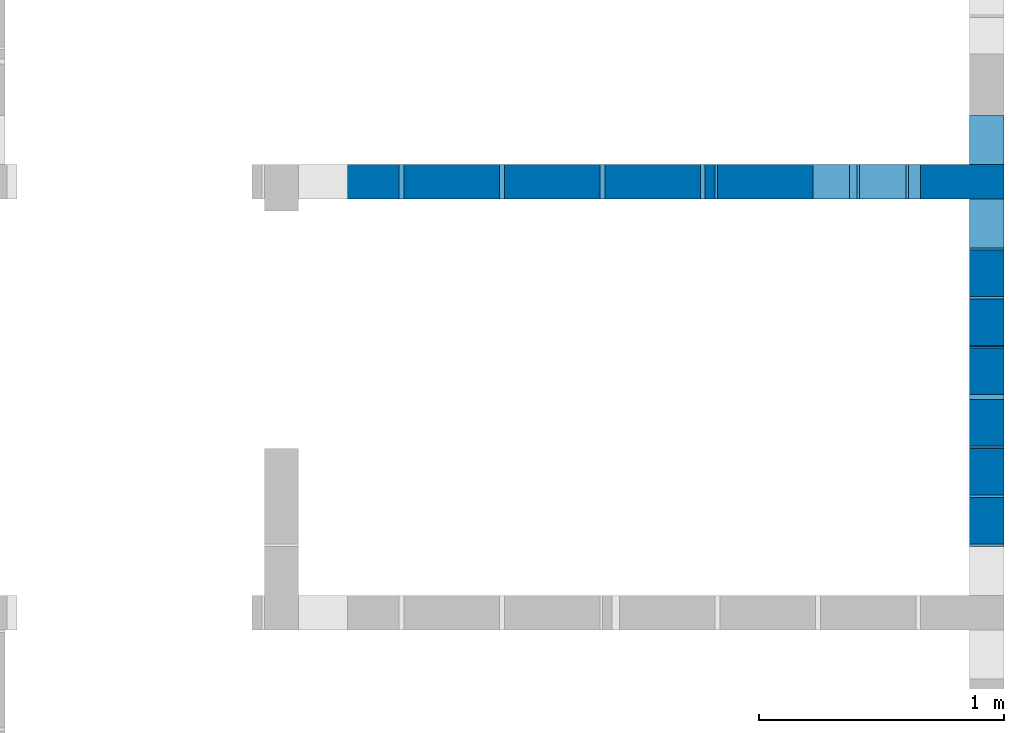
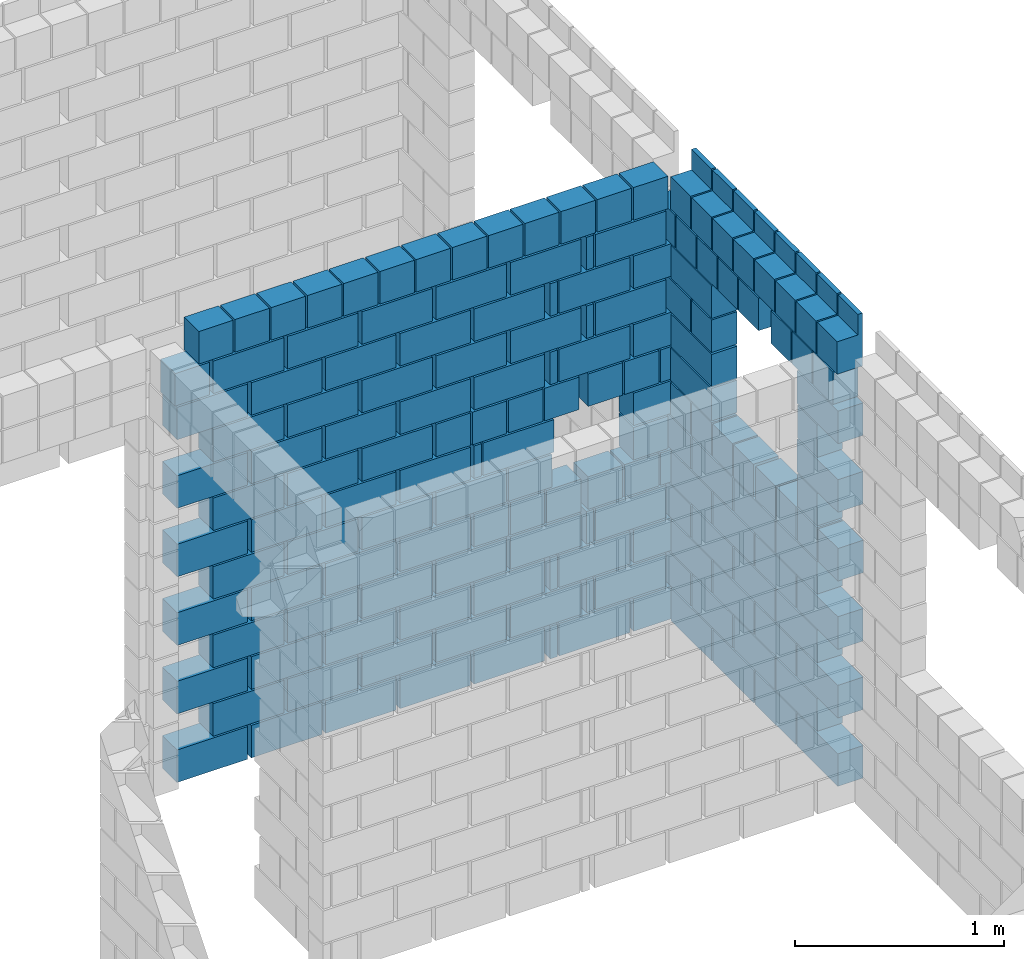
# One storey, part 10 of 12: 3 walls.
"""IFC4 building model written with IfcOpenShell, lengths in centimetres."""

from ifc_helpers import new_model, si_unit, derived_unit, frame, origin, origin_with_axes, origin_2d_with_axis, place, context, project, spatial, rectangle, extrude, element, save


model = new_model("IFC4")

# Units and contexts
model_context = context("Model", 3, precision=1e-05, world=origin_with_axes(), identifier="Body")
ifc_project = project(units=[si_unit("LENGTHUNIT", "METRE", prefix="CENTI"), si_unit("VOLUMEUNIT", "CUBIC_METRE"), si_unit("AREAUNIT", "SQUARE_METRE"), si_unit("POWERUNIT", "WATT"), si_unit("LUMINOUSFLUXUNIT", "LUMEN"), si_unit("ELECTRICCURRENTUNIT", "AMPERE"), si_unit("PRESSUREUNIT", "PASCAL", prefix="KILO"), si_unit("MASSUNIT", "GRAM", prefix="KILO"), si_unit("PLANEANGLEUNIT", "RADIAN"), derived_unit("VOLUMETRICFLOWRATEUNIT", [(si_unit("LENGTHUNIT", "METRE"), 3), (si_unit("TIMEUNIT", "SECOND"), -1)])], contexts=[model_context])

# Site, building, storey
site_placement = place(None, origin_with_axes())
site = spatial("IfcSite", under=ifc_project, at=site_placement)
building_placement = place(site_placement, origin())
building = spatial("IfcBuilding", under=site, at=building_placement)
storey_placement = place(building_placement, origin_with_axes())
storey = spatial("IfcBuildingStorey", under=building, at=storey_placement, Name="PISO", CompositionType="ELEMENT", Elevation=0.0)

# Walls
wall_1_placement = place(storey_placement, frame((682.01, 557.01, 239.0), z_axis=(0.0, 0.0, 1.0), x_axis=(1.0, 0.0, 0.0)))
element("IfcWall", 1, at=wall_1_placement, inside=storey, context=model_context, shape_type="SolidModel", body=[
    extrude(rectangle(XDim=34.0, YDim=14.0, at=origin_2d_with_axis()), frame((0.0, 0.0, -239.0), z_axis=(0.0, 0.0, 1.0), x_axis=(-1.0, 0.0, 0.0)), (0.0, 0.0, 1.0), 19.0),
    extrude(rectangle(XDim=54.0, YDim=14.0, at=origin_2d_with_axis()), frame((10.0, 0.0, -219.0), z_axis=(0.0, 0.0, 1.0), x_axis=(0.0, 1.0, 0.0)), (0.0, 0.0, 1.0), 19.0),
    extrude(rectangle(XDim=34.0, YDim=14.0, at=origin_2d_with_axis()), frame((0.0, 0.0, -199.0), z_axis=(0.0, 0.0, 1.0), x_axis=(-1.0, 0.0, 0.0)), (0.0, 0.0, 1.0), 19.0),
    extrude(rectangle(XDim=54.0, YDim=14.0, at=origin_2d_with_axis()), frame((10.0, 0.0, -179.0), z_axis=(0.0, 0.0, 1.0), x_axis=(0.0, 1.0, 0.0)), (0.0, 0.0, 1.0), 19.0),
    extrude(rectangle(XDim=19.0, YDim=14.0, at=origin_2d_with_axis()), frame((7.5, 0.0, -159.0), z_axis=(0.0, 0.0, 1.0), x_axis=(-1.0, 0.0, 0.0)), (0.0, 0.0, 1.0), 19.0),
    extrude(rectangle(XDim=54.0, YDim=14.0, at=origin_2d_with_axis()), frame((10.0, 0.0, -139.0), z_axis=(0.0, 0.0, 1.0), x_axis=(0.0, 1.0, 0.0)), (0.0, 0.0, 1.0), 19.0),
    extrude(rectangle(XDim=34.0, YDim=14.0, at=origin_2d_with_axis()), frame((0.0, 0.0, -119.0), z_axis=(0.0, 0.0, 1.0), x_axis=(-1.0, 0.0, 0.0)), (0.0, 0.0, 1.0), 19.0),
    extrude(rectangle(XDim=19.0, YDim=14.0, at=origin_2d_with_axis()), frame((7.5, 0.0, -99.0), z_axis=(0.0, 0.0, 1.0), x_axis=(-1.0, 0.0, 0.0)), (0.0, 0.0, 1.0), 19.0),
    extrude(rectangle(XDim=34.0, YDim=14.0, at=origin_2d_with_axis()), frame((0.0, 0.0, -79.0), z_axis=(0.0, 0.0, 1.0), x_axis=(-1.0, 0.0, 0.0)), (0.0, 0.0, 1.0), 19.0),
    extrude(rectangle(XDim=54.0, YDim=14.0, at=origin_2d_with_axis()), frame((10.0, 0.0, -59.0), z_axis=(0.0, 0.0, 1.0), x_axis=(0.0, 1.0, 0.0)), (0.0, 0.0, 1.0), 19.0),
    extrude(rectangle(XDim=34.0, YDim=14.0, at=origin_2d_with_axis()), frame((0.0, 0.0, -39.0), z_axis=(0.0, 0.0, 1.0), x_axis=(-1.0, 0.0, 0.0)), (0.0, 0.0, 1.0), 19.0),
    extrude(rectangle(XDim=19.0, YDim=14.0, at=origin_2d_with_axis()), frame((10.0, -2.5, -19.0), z_axis=(0.0, 0.0, 1.0), x_axis=(0.0, -1.0, 0.0)), (0.0, 0.0, 1.0), 19.0),
])
wall_2_placement = place(storey_placement, frame((692.01, 469.01, 271.0), z_axis=(0.0, 0.0, 1.0), x_axis=(1.0, 0.0, 0.0)))
element("IfcWall", 2, at=wall_2_placement, inside=storey, Name="PAR-PISO-15", context=model_context, shape_type="SolidModel", body=[
    extrude(rectangle(XDim=39.0, YDim=14.0, at=origin_2d_with_axis()), frame((0.0, 60.3, -271.0), z_axis=(0.0, 0.0, 1.0), x_axis=(0.0, -1.0, 0.0)), (0.0, 0.0, 1.0), 19.0),
    extrude(rectangle(XDim=39.0, YDim=14.0, at=origin_2d_with_axis()), frame((0.0, 20.1, -271.0), z_axis=(0.0, 0.0, 1.0), x_axis=(0.0, -1.0, 0.0)), (0.0, 0.0, 1.0), 19.0),
    extrude(rectangle(XDim=39.0, YDim=14.0, at=origin_2d_with_axis()), frame((0.0, -20.1, -271.0), z_axis=(0.0, 0.0, 1.0), x_axis=(0.0, -1.0, 0.0)), (0.0, 0.0, 1.0), 19.0),
    extrude(rectangle(XDim=39.0, YDim=14.0, at=origin_2d_with_axis()), frame((0.0, -60.3, -271.0), z_axis=(0.0, 0.0, 1.0), x_axis=(0.0, -1.0, 0.0)), (0.0, 0.0, 1.0), 19.0),
    extrude(rectangle(XDim=39.0, YDim=14.0, at=origin_2d_with_axis()), frame((0.0, 40.25, -251.0), z_axis=(0.0, 0.0, 1.0), x_axis=(0.0, -1.0, 0.0)), (0.0, 0.0, 1.0), 19.0),
    extrude(rectangle(XDim=39.0, YDim=14.0, at=origin_2d_with_axis()), frame((0.0, 0.0, -251.0), z_axis=(0.0, 0.0, 1.0), x_axis=(0.0, -1.0, 0.0)), (0.0, 0.0, 1.0), 19.0),
    extrude(rectangle(XDim=39.0, YDim=14.0, at=origin_2d_with_axis()), frame((0.0, -40.25, -251.0), z_axis=(0.0, 0.0, 1.0), x_axis=(0.0, -1.0, 0.0)), (0.0, 0.0, 1.0), 19.0),
    extrude(rectangle(XDim=39.0, YDim=14.0, at=origin_2d_with_axis()), frame((0.0, 60.3, -231.0), z_axis=(0.0, 0.0, 1.0), x_axis=(0.0, -1.0, 0.0)), (0.0, 0.0, 1.0), 19.0),
    extrude(rectangle(XDim=39.0, YDim=14.0, at=origin_2d_with_axis()), frame((0.0, 20.1, -231.0), z_axis=(0.0, 0.0, 1.0), x_axis=(0.0, -1.0, 0.0)), (0.0, 0.0, 1.0), 19.0),
    extrude(rectangle(XDim=39.0, YDim=14.0, at=origin_2d_with_axis()), frame((0.0, -20.1, -231.0), z_axis=(0.0, 0.0, 1.0), x_axis=(0.0, -1.0, 0.0)), (0.0, 0.0, 1.0), 19.0),
    extrude(rectangle(XDim=39.0, YDim=14.0, at=origin_2d_with_axis()), frame((0.0, -60.3, -231.0), z_axis=(0.0, 0.0, 1.0), x_axis=(0.0, -1.0, 0.0)), (0.0, 0.0, 1.0), 19.0),
    extrude(rectangle(XDim=39.0, YDim=14.0, at=origin_2d_with_axis()), frame((0.0, 40.25, -211.0), z_axis=(0.0, 0.0, 1.0), x_axis=(0.0, -1.0, 0.0)), (0.0, 0.0, 1.0), 19.0),
    extrude(rectangle(XDim=39.0, YDim=14.0, at=origin_2d_with_axis()), frame((0.0, 0.0, -211.0), z_axis=(0.0, 0.0, 1.0), x_axis=(0.0, -1.0, 0.0)), (0.0, 0.0, 1.0), 19.0),
    extrude(rectangle(XDim=39.0, YDim=14.0, at=origin_2d_with_axis()), frame((0.0, -40.25, -211.0), z_axis=(0.0, 0.0, 1.0), x_axis=(0.0, -1.0, 0.0)), (0.0, 0.0, 1.0), 19.0),
    extrude(rectangle(XDim=39.0, YDim=14.0, at=origin_2d_with_axis()), frame((0.0, 60.3, -191.0), z_axis=(0.0, 0.0, 1.0), x_axis=(0.0, -1.0, 0.0)), (0.0, 0.0, 1.0), 19.0),
    extrude(rectangle(XDim=39.0, YDim=14.0, at=origin_2d_with_axis()), frame((0.0, 20.1, -191.0), z_axis=(0.0, 0.0, 1.0), x_axis=(0.0, -1.0, 0.0)), (0.0, 0.0, 1.0), 19.0),
    extrude(rectangle(XDim=39.0, YDim=14.0, at=origin_2d_with_axis()), frame((0.0, -20.1, -191.0), z_axis=(0.0, 0.0, 1.0), x_axis=(0.0, -1.0, 0.0)), (0.0, 0.0, 1.0), 19.0),
    extrude(rectangle(XDim=39.0, YDim=14.0, at=origin_2d_with_axis()), frame((0.0, -60.3, -191.0), z_axis=(0.0, 0.0, 1.0), x_axis=(0.0, -1.0, 0.0)), (0.0, 0.0, 1.0), 19.0),
    extrude(rectangle(XDim=39.0, YDim=14.0, at=origin_2d_with_axis()), frame((0.0, 40.25, -171.0), z_axis=(0.0, 0.0, 1.0), x_axis=(0.0, -1.0, 0.0)), (0.0, 0.0, 1.0), 19.0),
    extrude(rectangle(XDim=39.0, YDim=14.0, at=origin_2d_with_axis()), frame((0.0, 0.0, -171.0), z_axis=(0.0, 0.0, 1.0), x_axis=(0.0, -1.0, 0.0)), (0.0, 0.0, 1.0), 19.0),
    extrude(rectangle(XDim=39.0, YDim=14.0, at=origin_2d_with_axis()), frame((0.0, -40.25, -171.0), z_axis=(0.0, 0.0, 1.0), x_axis=(0.0, -1.0, 0.0)), (0.0, 0.0, 1.0), 19.0),
    extrude(rectangle(XDim=19.0, YDim=14.0, at=origin_2d_with_axis()), frame((0.0, 70.5, -151.0), z_axis=(0.0, 0.0, 1.0), x_axis=(0.0, -1.0, 0.0)), (0.0, 0.0, 1.0), 19.0),
    extrude(rectangle(XDim=19.0, YDim=14.0, at=origin_2d_with_axis()), frame((0.0, 50.5, -151.0), z_axis=(0.0, 0.0, 1.0), x_axis=(0.0, -1.0, 0.0)), (0.0, 0.0, 1.0), 19.0),
    extrude(rectangle(XDim=19.0, YDim=14.0, at=origin_2d_with_axis()), frame((0.0, 30.5, -151.0), z_axis=(0.0, 0.0, 1.0), x_axis=(0.0, -1.0, 0.0)), (0.0, 0.0, 1.0), 19.0),
    extrude(rectangle(XDim=19.0, YDim=14.0, at=origin_2d_with_axis()), frame((0.0, 10.5, -151.0), z_axis=(0.0, 0.0, 1.0), x_axis=(0.0, -1.0, 0.0)), (0.0, 0.0, 1.0), 19.0),
    extrude(rectangle(XDim=19.0, YDim=14.0, at=origin_2d_with_axis()), frame((0.0, -10.5, -151.0), z_axis=(0.0, 0.0, 1.0), x_axis=(0.0, -1.0, 0.0)), (0.0, 0.0, 1.0), 19.0),
    extrude(rectangle(XDim=19.0, YDim=14.0, at=origin_2d_with_axis()), frame((0.0, -30.5, -151.0), z_axis=(0.0, 0.0, 1.0), x_axis=(0.0, -1.0, 0.0)), (0.0, 0.0, 1.0), 19.0),
    extrude(rectangle(XDim=19.0, YDim=14.0, at=origin_2d_with_axis()), frame((0.0, -50.5, -151.0), z_axis=(0.0, 0.0, 1.0), x_axis=(0.0, -1.0, 0.0)), (0.0, 0.0, 1.0), 19.0),
    extrude(rectangle(XDim=19.0, YDim=14.0, at=origin_2d_with_axis()), frame((0.0, -70.5, -151.0), z_axis=(0.0, 0.0, 1.0), x_axis=(0.0, -1.0, 0.0)), (0.0, 0.0, 1.0), 19.0),
    extrude(rectangle(XDim=19.0, YDim=14.0, at=origin_2d_with_axis()), frame((0.0, -50.5, -131.0), z_axis=(0.0, 0.0, 1.0), x_axis=(0.0, -1.0, 0.0)), (0.0, 0.0, 1.0), 19.0),
    extrude(rectangle(XDim=39.0, YDim=14.0, at=origin_2d_with_axis()), frame((0.0, 60.5, -131.0), z_axis=(0.0, 0.0, 1.0), x_axis=(0.0, -1.0, 0.0)), (0.0, 0.0, 1.0), 19.0),
    extrude(rectangle(XDim=39.0, YDim=14.0, at=origin_2d_with_axis()), frame((0.0, 60.3, -111.0), z_axis=(0.0, 0.0, 1.0), x_axis=(0.0, -1.0, 0.0)), (0.0, 0.0, 1.0), 19.0),
    extrude(rectangle(XDim=39.0, YDim=14.0, at=origin_2d_with_axis()), frame((0.0, -60.3, -111.0), z_axis=(0.0, 0.0, 1.0), x_axis=(0.0, -1.0, 0.0)), (0.0, 0.0, 1.0), 19.0),
    extrude(rectangle(XDim=19.0, YDim=14.0, at=origin_2d_with_axis()), frame((0.0, -50.5, -91.0), z_axis=(0.0, 0.0, 1.0), x_axis=(0.0, -1.0, 0.0)), (0.0, 0.0, 1.0), 19.0),
    extrude(rectangle(XDim=19.0, YDim=14.0, at=origin_2d_with_axis()), frame((0.0, 50.5, -91.0), z_axis=(0.0, 0.0, 1.0), x_axis=(0.0, -1.0, 0.0)), (0.0, 0.0, 1.0), 19.0),
    extrude(rectangle(XDim=39.0, YDim=14.0, at=origin_2d_with_axis()), frame((0.0, 60.3, -71.0), z_axis=(0.0, 0.0, 1.0), x_axis=(0.0, -1.0, 0.0)), (0.0, 0.0, 1.0), 19.0),
    extrude(rectangle(XDim=39.0, YDim=14.0, at=origin_2d_with_axis()), frame((0.0, -60.3, -71.0), z_axis=(0.0, 0.0, 1.0), x_axis=(0.0, -1.0, 0.0)), (0.0, 0.0, 1.0), 19.0),
    extrude(rectangle(XDim=19.0, YDim=14.0, at=origin_2d_with_axis()), frame((0.0, 65.5, -51.0), z_axis=(0.0, 0.0, 1.0), x_axis=(0.0, -1.0, 0.0)), (0.0, 0.0, 1.0), 19.0),
    extrude(rectangle(XDim=19.0, YDim=14.0, at=origin_2d_with_axis()), frame((0.0, 45.5, -51.0), z_axis=(0.0, 0.0, 1.0), x_axis=(0.0, -1.0, 0.0)), (0.0, 0.0, 1.0), 19.0),
    extrude(rectangle(XDim=19.0, YDim=14.0, at=origin_2d_with_axis()), frame((0.0, 25.5, -51.0), z_axis=(0.0, 0.0, 1.0), x_axis=(0.0, -1.0, 0.0)), (0.0, 0.0, 1.0), 19.0),
    extrude(rectangle(XDim=19.0, YDim=14.0, at=origin_2d_with_axis()), frame((0.0, 5.5, -51.0), z_axis=(0.0, 0.0, 1.0), x_axis=(0.0, -1.0, 0.0)), (0.0, 0.0, 1.0), 19.0),
    extrude(rectangle(XDim=19.0, YDim=14.0, at=origin_2d_with_axis()), frame((0.0, -25.5, -51.0), z_axis=(0.0, 0.0, 1.0), x_axis=(0.0, -1.0, 0.0)), (0.0, 0.0, 1.0), 19.0),
    extrude(rectangle(XDim=19.0, YDim=14.0, at=origin_2d_with_axis()), frame((0.0, -45.5, -51.0), z_axis=(0.0, 0.0, 1.0), x_axis=(0.0, -1.0, 0.0)), (0.0, 0.0, 1.0), 19.0),
    extrude(rectangle(XDim=19.0, YDim=14.0, at=origin_2d_with_axis()), frame((0.0, -65.5, -51.0), z_axis=(0.0, 0.0, 1.0), x_axis=(0.0, -1.0, 0.0)), (0.0, 0.0, 1.0), 19.0),
    extrude(rectangle(XDim=19.0, YDim=2.5, at=origin_2d_with_axis()), frame((5.75, 70.5, -12.0), z_axis=(0.0, 0.0, 1.0), x_axis=(0.0, -1.0, 0.0)), (0.0, 0.0, 1.0), 12.0),
    extrude(rectangle(XDim=19.0, YDim=14.0, at=origin_2d_with_axis()), frame((0.0, 70.5, -31.0), z_axis=(0.0, 0.0, 1.0), x_axis=(0.0, -1.0, 0.0)), (0.0, 0.0, 1.0), 19.0),
    extrude(rectangle(XDim=19.0, YDim=2.5, at=origin_2d_with_axis()), frame((5.75, 50.5, -12.0), z_axis=(0.0, 0.0, 1.0), x_axis=(0.0, -1.0, 0.0)), (0.0, 0.0, 1.0), 12.0),
    extrude(rectangle(XDim=19.0, YDim=14.0, at=origin_2d_with_axis()), frame((0.0, 50.5, -31.0), z_axis=(0.0, 0.0, 1.0), x_axis=(0.0, -1.0, 0.0)), (0.0, 0.0, 1.0), 19.0),
    extrude(rectangle(XDim=19.0, YDim=2.5, at=origin_2d_with_axis()), frame((5.75, 30.5, -12.0), z_axis=(0.0, 0.0, 1.0), x_axis=(0.0, -1.0, 0.0)), (0.0, 0.0, 1.0), 12.0),
    extrude(rectangle(XDim=19.0, YDim=14.0, at=origin_2d_with_axis()), frame((0.0, 30.5, -31.0), z_axis=(0.0, 0.0, 1.0), x_axis=(0.0, -1.0, 0.0)), (0.0, 0.0, 1.0), 19.0),
    extrude(rectangle(XDim=19.0, YDim=2.5, at=origin_2d_with_axis()), frame((5.75, 10.5, -12.0), z_axis=(0.0, 0.0, 1.0), x_axis=(0.0, -1.0, 0.0)), (0.0, 0.0, 1.0), 12.0),
    extrude(rectangle(XDim=19.0, YDim=14.0, at=origin_2d_with_axis()), frame((0.0, 10.5, -31.0), z_axis=(0.0, 0.0, 1.0), x_axis=(0.0, -1.0, 0.0)), (0.0, 0.0, 1.0), 19.0),
    extrude(rectangle(XDim=19.0, YDim=2.5, at=origin_2d_with_axis()), frame((5.75, -9.5, -12.0), z_axis=(0.0, 0.0, 1.0), x_axis=(0.0, -1.0, 0.0)), (0.0, 0.0, 1.0), 12.0),
    extrude(rectangle(XDim=19.0, YDim=14.0, at=origin_2d_with_axis()), frame((0.0, -9.5, -31.0), z_axis=(0.0, 0.0, 1.0), x_axis=(0.0, -1.0, 0.0)), (0.0, 0.0, 1.0), 19.0),
    extrude(rectangle(XDim=19.0, YDim=2.5, at=origin_2d_with_axis()), frame((5.75, -29.5, -12.0), z_axis=(0.0, 0.0, 1.0), x_axis=(0.0, -1.0, 0.0)), (0.0, 0.0, 1.0), 12.0),
    extrude(rectangle(XDim=19.0, YDim=14.0, at=origin_2d_with_axis()), frame((0.0, -29.5, -31.0), z_axis=(0.0, 0.0, 1.0), x_axis=(0.0, -1.0, 0.0)), (0.0, 0.0, 1.0), 19.0),
    extrude(rectangle(XDim=19.0, YDim=2.5, at=origin_2d_with_axis()), frame((5.75, -49.5, -12.0), z_axis=(0.0, 0.0, 1.0), x_axis=(0.0, -1.0, 0.0)), (0.0, 0.0, 1.0), 12.0),
    extrude(rectangle(XDim=19.0, YDim=14.0, at=origin_2d_with_axis()), frame((0.0, -49.5, -31.0), z_axis=(0.0, 0.0, 1.0), x_axis=(0.0, -1.0, 0.0)), (0.0, 0.0, 1.0), 19.0),
    extrude(rectangle(XDim=19.0, YDim=2.5, at=origin_2d_with_axis()), frame((5.75, -69.5, -12.0), z_axis=(0.0, 0.0, 1.0), x_axis=(0.0, -1.0, 0.0)), (0.0, 0.0, 1.0), 12.0),
    extrude(rectangle(XDim=19.0, YDim=14.0, at=origin_2d_with_axis()), frame((0.0, -69.5, -31.0), z_axis=(0.0, 0.0, 1.0), x_axis=(0.0, -1.0, 0.0)), (0.0, 0.0, 1.0), 19.0),
])
wall_3_placement = place(storey_placement, frame((548.01, 557.01, 259.0), z_axis=(0.0, 0.0, 1.0), x_axis=(1.0, 0.0, 0.0)))
element("IfcWall", 3, at=wall_3_placement, inside=storey, Name="PAR-PISO-5", context=model_context, shape_type="SolidModel", body=[
    extrude(rectangle(XDim=39.0, YDim=14.0, at=origin_2d_with_axis()), frame((95.5, 0.0, -259.0), z_axis=(0.0, 0.0, 1.0), x_axis=(-1.0, 0.0, 0.0)), (0.0, 0.0, 1.0), 19.0),
    extrude(rectangle(XDim=39.0, YDim=14.0, at=origin_2d_with_axis()), frame((48.5, 0.0, -259.0), z_axis=(0.0, 0.0, 1.0), x_axis=(-1.0, 0.0, 0.0)), (0.0, 0.0, 1.0), 19.0),
    extrude(rectangle(XDim=39.0, YDim=14.0, at=origin_2d_with_axis()), frame((7.5, 0.0, -259.0), z_axis=(0.0, 0.0, 1.0), x_axis=(-1.0, 0.0, 0.0)), (0.0, 0.0, 1.0), 19.0),
    extrude(rectangle(XDim=39.0, YDim=14.0, at=origin_2d_with_axis()), frame((-33.5, 0.0, -259.0), z_axis=(0.0, 0.0, 1.0), x_axis=(-1.0, 0.0, 0.0)), (0.0, 0.0, 1.0), 19.0),
    extrude(rectangle(XDim=39.0, YDim=14.0, at=origin_2d_with_axis()), frame((-74.5, 0.0, -259.0), z_axis=(0.0, 0.0, 1.0), x_axis=(-1.0, 0.0, 0.0)), (0.0, 0.0, 1.0), 19.0),
    extrude(rectangle(XDim=39.0, YDim=14.0, at=origin_2d_with_axis()), frame((-115.5, 0.0, -259.0), z_axis=(0.0, 0.0, 1.0), x_axis=(-1.0, 0.0, 0.0)), (0.0, 0.0, 1.0), 19.0),
    extrude(rectangle(XDim=4.0, YDim=14.0, at=origin_2d_with_axis()), frame((73.0, 0.0, -259.0), z_axis=(0.0, 0.0, 1.0), x_axis=(-1.0, 0.0, 0.0)), (0.0, 0.0, 1.0), 19.0),
    extrude(rectangle(XDim=39.0, YDim=14.0, at=origin_2d_with_axis()), frame((115.5, 0.0, -239.0), z_axis=(0.0, 0.0, 1.0), x_axis=(-1.0, 0.0, 0.0)), (0.0, 0.0, 1.0), 19.0),
    extrude(rectangle(XDim=39.0, YDim=14.0, at=origin_2d_with_axis()), frame((68.5, 0.0, -239.0), z_axis=(0.0, 0.0, 1.0), x_axis=(-1.0, 0.0, 0.0)), (0.0, 0.0, 1.0), 19.0),
    extrude(rectangle(XDim=39.0, YDim=14.0, at=origin_2d_with_axis()), frame((27.5, 0.0, -239.0), z_axis=(0.0, 0.0, 1.0), x_axis=(-1.0, 0.0, 0.0)), (0.0, 0.0, 1.0), 19.0),
    extrude(rectangle(XDim=39.0, YDim=14.0, at=origin_2d_with_axis()), frame((-13.5, 0.0, -239.0), z_axis=(0.0, 0.0, 1.0), x_axis=(-1.0, 0.0, 0.0)), (0.0, 0.0, 1.0), 19.0),
    extrude(rectangle(XDim=39.0, YDim=14.0, at=origin_2d_with_axis()), frame((-54.5, 0.0, -239.0), z_axis=(0.0, 0.0, 1.0), x_axis=(-1.0, 0.0, 0.0)), (0.0, 0.0, 1.0), 19.0),
    extrude(rectangle(XDim=39.0, YDim=14.0, at=origin_2d_with_axis()), frame((-95.5, 0.0, -239.0), z_axis=(0.0, 0.0, 1.0), x_axis=(-1.0, 0.0, 0.0)), (0.0, 0.0, 1.0), 19.0),
    extrude(rectangle(XDim=4.0, YDim=14.0, at=origin_2d_with_axis()), frame((93.0, 0.0, -239.0), z_axis=(0.0, 0.0, 1.0), x_axis=(-1.0, 0.0, 0.0)), (0.0, 0.0, 1.0), 19.0),
    extrude(rectangle(XDim=39.0, YDim=14.0, at=origin_2d_with_axis()), frame((95.5, 0.0, -219.0), z_axis=(0.0, 0.0, 1.0), x_axis=(-1.0, 0.0, 0.0)), (0.0, 0.0, 1.0), 19.0),
    extrude(rectangle(XDim=39.0, YDim=14.0, at=origin_2d_with_axis()), frame((48.5, 0.0, -219.0), z_axis=(0.0, 0.0, 1.0), x_axis=(-1.0, 0.0, 0.0)), (0.0, 0.0, 1.0), 19.0),
    extrude(rectangle(XDim=39.0, YDim=14.0, at=origin_2d_with_axis()), frame((7.5, 0.0, -219.0), z_axis=(0.0, 0.0, 1.0), x_axis=(-1.0, 0.0, 0.0)), (0.0, 0.0, 1.0), 19.0),
    extrude(rectangle(XDim=39.0, YDim=14.0, at=origin_2d_with_axis()), frame((-33.5, 0.0, -219.0), z_axis=(0.0, 0.0, 1.0), x_axis=(-1.0, 0.0, 0.0)), (0.0, 0.0, 1.0), 19.0),
    extrude(rectangle(XDim=39.0, YDim=14.0, at=origin_2d_with_axis()), frame((-74.5, 0.0, -219.0), z_axis=(0.0, 0.0, 1.0), x_axis=(-1.0, 0.0, 0.0)), (0.0, 0.0, 1.0), 19.0),
    extrude(rectangle(XDim=39.0, YDim=14.0, at=origin_2d_with_axis()), frame((-115.5, 0.0, -219.0), z_axis=(0.0, 0.0, 1.0), x_axis=(-1.0, 0.0, 0.0)), (0.0, 0.0, 1.0), 19.0),
    extrude(rectangle(XDim=4.0, YDim=14.0, at=origin_2d_with_axis()), frame((73.0, 0.0, -219.0), z_axis=(0.0, 0.0, 1.0), x_axis=(-1.0, 0.0, 0.0)), (0.0, 0.0, 1.0), 19.0),
    extrude(rectangle(XDim=39.0, YDim=14.0, at=origin_2d_with_axis()), frame((115.5, 0.0, -199.0), z_axis=(0.0, 0.0, 1.0), x_axis=(-1.0, 0.0, 0.0)), (0.0, 0.0, 1.0), 19.0),
    extrude(rectangle(XDim=39.0, YDim=14.0, at=origin_2d_with_axis()), frame((68.5, 0.0, -199.0), z_axis=(0.0, 0.0, 1.0), x_axis=(-1.0, 0.0, 0.0)), (0.0, 0.0, 1.0), 19.0),
    extrude(rectangle(XDim=39.0, YDim=14.0, at=origin_2d_with_axis()), frame((27.5, 0.0, -199.0), z_axis=(0.0, 0.0, 1.0), x_axis=(-1.0, 0.0, 0.0)), (0.0, 0.0, 1.0), 19.0),
    extrude(rectangle(XDim=39.0, YDim=14.0, at=origin_2d_with_axis()), frame((-13.5, 0.0, -199.0), z_axis=(0.0, 0.0, 1.0), x_axis=(-1.0, 0.0, 0.0)), (0.0, 0.0, 1.0), 19.0),
    extrude(rectangle(XDim=39.0, YDim=14.0, at=origin_2d_with_axis()), frame((-54.5, 0.0, -199.0), z_axis=(0.0, 0.0, 1.0), x_axis=(-1.0, 0.0, 0.0)), (0.0, 0.0, 1.0), 19.0),
    extrude(rectangle(XDim=39.0, YDim=14.0, at=origin_2d_with_axis()), frame((-95.5, 0.0, -199.0), z_axis=(0.0, 0.0, 1.0), x_axis=(-1.0, 0.0, 0.0)), (0.0, 0.0, 1.0), 19.0),
    extrude(rectangle(XDim=4.0, YDim=14.0, at=origin_2d_with_axis()), frame((93.0, 0.0, -199.0), z_axis=(0.0, 0.0, 1.0), x_axis=(-1.0, 0.0, 0.0)), (0.0, 0.0, 1.0), 19.0),
    extrude(rectangle(XDim=39.0, YDim=14.0, at=origin_2d_with_axis()), frame((7.5, 0.0, -179.0), z_axis=(0.0, 0.0, 1.0), x_axis=(-1.0, 0.0, 0.0)), (0.0, 0.0, 1.0), 19.0),
    extrude(rectangle(XDim=39.0, YDim=14.0, at=origin_2d_with_axis()), frame((-33.5, 0.0, -179.0), z_axis=(0.0, 0.0, 1.0), x_axis=(-1.0, 0.0, 0.0)), (0.0, 0.0, 1.0), 19.0),
    extrude(rectangle(XDim=39.0, YDim=14.0, at=origin_2d_with_axis()), frame((-74.5, 0.0, -179.0), z_axis=(0.0, 0.0, 1.0), x_axis=(-1.0, 0.0, 0.0)), (0.0, 0.0, 1.0), 19.0),
    extrude(rectangle(XDim=39.0, YDim=14.0, at=origin_2d_with_axis()), frame((-115.5, 0.0, -179.0), z_axis=(0.0, 0.0, 1.0), x_axis=(-1.0, 0.0, 0.0)), (0.0, 0.0, 1.0), 19.0),
    extrude(rectangle(XDim=19.0, YDim=14.0, at=origin_2d_with_axis()), frame((121.5, 0.0, -179.0), z_axis=(0.0, 0.0, 1.0), x_axis=(-1.0, 0.0, 0.0)), (0.0, 0.0, 1.0), 19.0),
    extrude(rectangle(XDim=19.0, YDim=14.0, at=origin_2d_with_axis()), frame((101.5, 0.0, -179.0), z_axis=(0.0, 0.0, 1.0), x_axis=(-1.0, 0.0, 0.0)), (0.0, 0.0, 1.0), 19.0),
    extrude(rectangle(XDim=19.0, YDim=14.0, at=origin_2d_with_axis()), frame((78.5, 0.0, -179.0), z_axis=(0.0, 0.0, 1.0), x_axis=(-1.0, 0.0, 0.0)), (0.0, 0.0, 1.0), 19.0),
    extrude(rectangle(XDim=19.0, YDim=14.0, at=origin_2d_with_axis()), frame((58.5, 0.0, -179.0), z_axis=(0.0, 0.0, 1.0), x_axis=(-1.0, 0.0, 0.0)), (0.0, 0.0, 1.0), 19.0),
    extrude(rectangle(XDim=19.0, YDim=14.0, at=origin_2d_with_axis()), frame((38.5, 0.0, -179.0), z_axis=(0.0, 0.0, 1.0), x_axis=(-1.0, 0.0, 0.0)), (0.0, 0.0, 1.0), 19.0),
    extrude(rectangle(XDim=39.0, YDim=14.0, at=origin_2d_with_axis()), frame((27.5, 0.0, -159.0), z_axis=(0.0, 0.0, 1.0), x_axis=(-1.0, 0.0, 0.0)), (0.0, 0.0, 1.0), 19.0),
    extrude(rectangle(XDim=39.0, YDim=14.0, at=origin_2d_with_axis()), frame((-13.5, 0.0, -159.0), z_axis=(0.0, 0.0, 1.0), x_axis=(-1.0, 0.0, 0.0)), (0.0, 0.0, 1.0), 19.0),
    extrude(rectangle(XDim=39.0, YDim=14.0, at=origin_2d_with_axis()), frame((-54.5, 0.0, -159.0), z_axis=(0.0, 0.0, 1.0), x_axis=(-1.0, 0.0, 0.0)), (0.0, 0.0, 1.0), 19.0),
    extrude(rectangle(XDim=39.0, YDim=14.0, at=origin_2d_with_axis()), frame((-95.5, 0.0, -159.0), z_axis=(0.0, 0.0, 1.0), x_axis=(-1.0, 0.0, 0.0)), (0.0, 0.0, 1.0), 19.0),
    extrude(rectangle(XDim=24.0, YDim=14.0, at=origin_2d_with_axis()), frame((60.0, 0.0, -159.0), z_axis=(0.0, 0.0, 1.0), x_axis=(-1.0, 0.0, 0.0)), (0.0, 0.0, 1.0), 19.0),
    extrude(rectangle(XDim=19.0, YDim=14.0, at=origin_2d_with_axis()), frame((126.5, 0.0, -159.0), z_axis=(0.0, 0.0, 1.0), x_axis=(-1.0, 0.0, 0.0)), (0.0, 0.0, 1.0), 19.0),
    extrude(rectangle(XDim=39.0, YDim=14.0, at=origin_2d_with_axis()), frame((7.5, 0.0, -139.0), z_axis=(0.0, 0.0, 1.0), x_axis=(-1.0, 0.0, 0.0)), (0.0, 0.0, 1.0), 19.0),
    extrude(rectangle(XDim=39.0, YDim=14.0, at=origin_2d_with_axis()), frame((-33.5, 0.0, -139.0), z_axis=(0.0, 0.0, 1.0), x_axis=(-1.0, 0.0, 0.0)), (0.0, 0.0, 1.0), 19.0),
    extrude(rectangle(XDim=39.0, YDim=14.0, at=origin_2d_with_axis()), frame((-74.5, 0.0, -139.0), z_axis=(0.0, 0.0, 1.0), x_axis=(-1.0, 0.0, 0.0)), (0.0, 0.0, 1.0), 19.0),
    extrude(rectangle(XDim=39.0, YDim=14.0, at=origin_2d_with_axis()), frame((-115.5, 0.0, -139.0), z_axis=(0.0, 0.0, 1.0), x_axis=(-1.0, 0.0, 0.0)), (0.0, 0.0, 1.0), 19.0),
    extrude(rectangle(XDim=4.0, YDim=14.0, at=origin_2d_with_axis()), frame((31.0, 0.0, -139.0), z_axis=(0.0, 0.0, 1.0), x_axis=(-1.0, 0.0, 0.0)), (0.0, 0.0, 1.0), 19.0),
    extrude(rectangle(XDim=39.0, YDim=14.0, at=origin_2d_with_axis()), frame((53.5, 0.0, -139.0), z_axis=(0.0, 0.0, 1.0), x_axis=(-1.0, 0.0, 0.0)), (0.0, 0.0, 1.0), 19.0),
    extrude(rectangle(XDim=39.0, YDim=14.0, at=origin_2d_with_axis()), frame((-13.5, 0.0, -119.0), z_axis=(0.0, 0.0, 1.0), x_axis=(-1.0, 0.0, 0.0)), (0.0, 0.0, 1.0), 19.0),
    extrude(rectangle(XDim=39.0, YDim=14.0, at=origin_2d_with_axis()), frame((-54.5, 0.0, -119.0), z_axis=(0.0, 0.0, 1.0), x_axis=(-1.0, 0.0, 0.0)), (0.0, 0.0, 1.0), 19.0),
    extrude(rectangle(XDim=39.0, YDim=14.0, at=origin_2d_with_axis()), frame((-95.5, 0.0, -119.0), z_axis=(0.0, 0.0, 1.0), x_axis=(-1.0, 0.0, 0.0)), (0.0, 0.0, 1.0), 19.0),
    extrude(rectangle(XDim=19.0, YDim=14.0, at=origin_2d_with_axis()), frame((121.5, 0.0, -119.0), z_axis=(0.0, 0.0, 1.0), x_axis=(-1.0, 0.0, 0.0)), (0.0, 0.0, 1.0), 19.0),
    extrude(rectangle(XDim=19.0, YDim=14.0, at=origin_2d_with_axis()), frame((101.5, 0.0, -119.0), z_axis=(0.0, 0.0, 1.0), x_axis=(-1.0, 0.0, 0.0)), (0.0, 0.0, 1.0), 19.0),
    extrude(rectangle(XDim=19.0, YDim=14.0, at=origin_2d_with_axis()), frame((77.5, 0.0, -119.0), z_axis=(0.0, 0.0, 1.0), x_axis=(-1.0, 0.0, 0.0)), (0.0, 0.0, 1.0), 19.0),
    extrude(rectangle(XDim=19.0, YDim=14.0, at=origin_2d_with_axis()), frame((57.5, 0.0, -119.0), z_axis=(0.0, 0.0, 1.0), x_axis=(-1.0, 0.0, 0.0)), (0.0, 0.0, 1.0), 19.0),
    extrude(rectangle(XDim=19.0, YDim=14.0, at=origin_2d_with_axis()), frame((37.5, 0.0, -119.0), z_axis=(0.0, 0.0, 1.0), x_axis=(-1.0, 0.0, 0.0)), (0.0, 0.0, 1.0), 19.0),
    extrude(rectangle(XDim=19.0, YDim=14.0, at=origin_2d_with_axis()), frame((17.5, 0.0, -119.0), z_axis=(0.0, 0.0, 1.0), x_axis=(-1.0, 0.0, 0.0)), (0.0, 0.0, 1.0), 19.0),
    extrude(rectangle(XDim=39.0, YDim=14.0, at=origin_2d_with_axis()), frame((95.5, 0.0, -99.0), z_axis=(0.0, 0.0, 1.0), x_axis=(-1.0, 0.0, 0.0)), (0.0, 0.0, 1.0), 19.0),
    extrude(rectangle(XDim=39.0, YDim=14.0, at=origin_2d_with_axis()), frame((48.5, 0.0, -99.0), z_axis=(0.0, 0.0, 1.0), x_axis=(-1.0, 0.0, 0.0)), (0.0, 0.0, 1.0), 19.0),
    extrude(rectangle(XDim=39.0, YDim=14.0, at=origin_2d_with_axis()), frame((7.5, 0.0, -99.0), z_axis=(0.0, 0.0, 1.0), x_axis=(-1.0, 0.0, 0.0)), (0.0, 0.0, 1.0), 19.0),
    extrude(rectangle(XDim=39.0, YDim=14.0, at=origin_2d_with_axis()), frame((-33.5, 0.0, -99.0), z_axis=(0.0, 0.0, 1.0), x_axis=(-1.0, 0.0, 0.0)), (0.0, 0.0, 1.0), 19.0),
    extrude(rectangle(XDim=39.0, YDim=14.0, at=origin_2d_with_axis()), frame((-74.5, 0.0, -99.0), z_axis=(0.0, 0.0, 1.0), x_axis=(-1.0, 0.0, 0.0)), (0.0, 0.0, 1.0), 19.0),
    extrude(rectangle(XDim=39.0, YDim=14.0, at=origin_2d_with_axis()), frame((-115.5, 0.0, -99.0), z_axis=(0.0, 0.0, 1.0), x_axis=(-1.0, 0.0, 0.0)), (0.0, 0.0, 1.0), 19.0),
    extrude(rectangle(XDim=4.0, YDim=14.0, at=origin_2d_with_axis()), frame((73.0, 0.0, -99.0), z_axis=(0.0, 0.0, 1.0), x_axis=(-1.0, 0.0, 0.0)), (0.0, 0.0, 1.0), 19.0),
    extrude(rectangle(XDim=39.0, YDim=14.0, at=origin_2d_with_axis()), frame((115.5, 0.0, -79.0), z_axis=(0.0, 0.0, 1.0), x_axis=(-1.0, 0.0, 0.0)), (0.0, 0.0, 1.0), 19.0),
    extrude(rectangle(XDim=39.0, YDim=14.0, at=origin_2d_with_axis()), frame((68.5, 0.0, -79.0), z_axis=(0.0, 0.0, 1.0), x_axis=(-1.0, 0.0, 0.0)), (0.0, 0.0, 1.0), 19.0),
    extrude(rectangle(XDim=39.0, YDim=14.0, at=origin_2d_with_axis()), frame((27.5, 0.0, -79.0), z_axis=(0.0, 0.0, 1.0), x_axis=(-1.0, 0.0, 0.0)), (0.0, 0.0, 1.0), 19.0),
    extrude(rectangle(XDim=39.0, YDim=14.0, at=origin_2d_with_axis()), frame((-13.5, 0.0, -79.0), z_axis=(0.0, 0.0, 1.0), x_axis=(-1.0, 0.0, 0.0)), (0.0, 0.0, 1.0), 19.0),
    extrude(rectangle(XDim=39.0, YDim=14.0, at=origin_2d_with_axis()), frame((-54.5, 0.0, -79.0), z_axis=(0.0, 0.0, 1.0), x_axis=(-1.0, 0.0, 0.0)), (0.0, 0.0, 1.0), 19.0),
    extrude(rectangle(XDim=39.0, YDim=14.0, at=origin_2d_with_axis()), frame((-95.5, 0.0, -79.0), z_axis=(0.0, 0.0, 1.0), x_axis=(-1.0, 0.0, 0.0)), (0.0, 0.0, 1.0), 19.0),
    extrude(rectangle(XDim=4.0, YDim=14.0, at=origin_2d_with_axis()), frame((93.0, 0.0, -79.0), z_axis=(0.0, 0.0, 1.0), x_axis=(-1.0, 0.0, 0.0)), (0.0, 0.0, 1.0), 19.0),
    extrude(rectangle(XDim=39.0, YDim=14.0, at=origin_2d_with_axis()), frame((95.5, 0.0, -59.0), z_axis=(0.0, 0.0, 1.0), x_axis=(-1.0, 0.0, 0.0)), (0.0, 0.0, 1.0), 19.0),
    extrude(rectangle(XDim=39.0, YDim=14.0, at=origin_2d_with_axis()), frame((48.5, 0.0, -59.0), z_axis=(0.0, 0.0, 1.0), x_axis=(-1.0, 0.0, 0.0)), (0.0, 0.0, 1.0), 19.0),
    extrude(rectangle(XDim=39.0, YDim=14.0, at=origin_2d_with_axis()), frame((7.5, 0.0, -59.0), z_axis=(0.0, 0.0, 1.0), x_axis=(-1.0, 0.0, 0.0)), (0.0, 0.0, 1.0), 19.0),
    extrude(rectangle(XDim=39.0, YDim=14.0, at=origin_2d_with_axis()), frame((-33.5, 0.0, -59.0), z_axis=(0.0, 0.0, 1.0), x_axis=(-1.0, 0.0, 0.0)), (0.0, 0.0, 1.0), 19.0),
    extrude(rectangle(XDim=39.0, YDim=14.0, at=origin_2d_with_axis()), frame((-74.5, 0.0, -59.0), z_axis=(0.0, 0.0, 1.0), x_axis=(-1.0, 0.0, 0.0)), (0.0, 0.0, 1.0), 19.0),
    extrude(rectangle(XDim=39.0, YDim=14.0, at=origin_2d_with_axis()), frame((-115.5, 0.0, -59.0), z_axis=(0.0, 0.0, 1.0), x_axis=(-1.0, 0.0, 0.0)), (0.0, 0.0, 1.0), 19.0),
    extrude(rectangle(XDim=4.0, YDim=14.0, at=origin_2d_with_axis()), frame((73.0, 0.0, -59.0), z_axis=(0.0, 0.0, 1.0), x_axis=(-1.0, 0.0, 0.0)), (0.0, 0.0, 1.0), 19.0),
    extrude(rectangle(XDim=39.0, YDim=14.0, at=origin_2d_with_axis()), frame((115.5, 0.0, -39.0), z_axis=(0.0, 0.0, 1.0), x_axis=(-1.0, 0.0, 0.0)), (0.0, 0.0, 1.0), 19.0),
    extrude(rectangle(XDim=39.0, YDim=14.0, at=origin_2d_with_axis()), frame((68.5, 0.0, -39.0), z_axis=(0.0, 0.0, 1.0), x_axis=(-1.0, 0.0, 0.0)), (0.0, 0.0, 1.0), 19.0),
    extrude(rectangle(XDim=39.0, YDim=14.0, at=origin_2d_with_axis()), frame((27.5, 0.0, -39.0), z_axis=(0.0, 0.0, 1.0), x_axis=(-1.0, 0.0, 0.0)), (0.0, 0.0, 1.0), 19.0),
    extrude(rectangle(XDim=39.0, YDim=14.0, at=origin_2d_with_axis()), frame((-13.5, 0.0, -39.0), z_axis=(0.0, 0.0, 1.0), x_axis=(-1.0, 0.0, 0.0)), (0.0, 0.0, 1.0), 19.0),
    extrude(rectangle(XDim=39.0, YDim=14.0, at=origin_2d_with_axis()), frame((-54.5, 0.0, -39.0), z_axis=(0.0, 0.0, 1.0), x_axis=(-1.0, 0.0, 0.0)), (0.0, 0.0, 1.0), 19.0),
    extrude(rectangle(XDim=39.0, YDim=14.0, at=origin_2d_with_axis()), frame((-95.5, 0.0, -39.0), z_axis=(0.0, 0.0, 1.0), x_axis=(-1.0, 0.0, 0.0)), (0.0, 0.0, 1.0), 19.0),
    extrude(rectangle(XDim=19.0, YDim=14.0, at=origin_2d_with_axis()), frame((-126.5, 0.0, -39.0), z_axis=(0.0, 0.0, 1.0), x_axis=(-1.0, 0.0, 0.0)), (0.0, 0.0, 1.0), 19.0),
    extrude(rectangle(XDim=4.0, YDim=14.0, at=origin_2d_with_axis()), frame((93.0, 0.0, -39.0), z_axis=(0.0, 0.0, 1.0), x_axis=(-1.0, 0.0, 0.0)), (0.0, 0.0, 1.0), 19.0),
    extrude(rectangle(XDim=19.0, YDim=14.0, at=origin_2d_with_axis()), frame((126.5, 0.0, -19.0), z_axis=(0.0, 0.0, 1.0), x_axis=(-1.0, 0.0, 0.0)), (0.0, 0.0, 1.0), 19.0),
    extrude(rectangle(XDim=19.0, YDim=14.0, at=origin_2d_with_axis()), frame((106.5, 0.0, -19.0), z_axis=(0.0, 0.0, 1.0), x_axis=(-1.0, 0.0, 0.0)), (0.0, 0.0, 1.0), 19.0),
    extrude(rectangle(XDim=19.0, YDim=14.0, at=origin_2d_with_axis()), frame((86.5, 0.0, -19.0), z_axis=(0.0, 0.0, 1.0), x_axis=(-1.0, 0.0, 0.0)), (0.0, 0.0, 1.0), 19.0),
    extrude(rectangle(XDim=19.0, YDim=14.0, at=origin_2d_with_axis()), frame((66.5, 0.0, -19.0), z_axis=(0.0, 0.0, 1.0), x_axis=(-1.0, 0.0, 0.0)), (0.0, 0.0, 1.0), 19.0),
    extrude(rectangle(XDim=19.0, YDim=14.0, at=origin_2d_with_axis()), frame((46.5, 0.0, -19.0), z_axis=(0.0, 0.0, 1.0), x_axis=(-1.0, 0.0, 0.0)), (0.0, 0.0, 1.0), 19.0),
    extrude(rectangle(XDim=19.0, YDim=14.0, at=origin_2d_with_axis()), frame((26.5, 0.0, -19.0), z_axis=(0.0, 0.0, 1.0), x_axis=(-1.0, 0.0, 0.0)), (0.0, 0.0, 1.0), 19.0),
    extrude(rectangle(XDim=19.0, YDim=14.0, at=origin_2d_with_axis()), frame((6.5, 0.0, -19.0), z_axis=(0.0, 0.0, 1.0), x_axis=(-1.0, 0.0, 0.0)), (0.0, 0.0, 1.0), 19.0),
    extrude(rectangle(XDim=19.0, YDim=14.0, at=origin_2d_with_axis()), frame((-13.5, 0.0, -19.0), z_axis=(0.0, 0.0, 1.0), x_axis=(-1.0, 0.0, 0.0)), (0.0, 0.0, 1.0), 19.0),
    extrude(rectangle(XDim=19.0, YDim=14.0, at=origin_2d_with_axis()), frame((-33.5, 0.0, -19.0), z_axis=(0.0, 0.0, 1.0), x_axis=(-1.0, 0.0, 0.0)), (0.0, 0.0, 1.0), 19.0),
    extrude(rectangle(XDim=19.0, YDim=14.0, at=origin_2d_with_axis()), frame((-53.5, 0.0, -19.0), z_axis=(0.0, 0.0, 1.0), x_axis=(-1.0, 0.0, 0.0)), (0.0, 0.0, 1.0), 19.0),
    extrude(rectangle(XDim=19.0, YDim=14.0, at=origin_2d_with_axis()), frame((-73.5, 0.0, -19.0), z_axis=(0.0, 0.0, 1.0), x_axis=(-1.0, 0.0, 0.0)), (0.0, 0.0, 1.0), 19.0),
    extrude(rectangle(XDim=19.0, YDim=14.0, at=origin_2d_with_axis()), frame((-93.5, 0.0, -19.0), z_axis=(0.0, 0.0, 1.0), x_axis=(-1.0, 0.0, 0.0)), (0.0, 0.0, 1.0), 19.0),
    extrude(rectangle(XDim=19.0, YDim=14.0, at=origin_2d_with_axis()), frame((-113.5, 0.0, -19.0), z_axis=(0.0, 0.0, 1.0), x_axis=(-1.0, 0.0, 0.0)), (0.0, 0.0, 1.0), 19.0),
])

save(model, "model.ifc")
